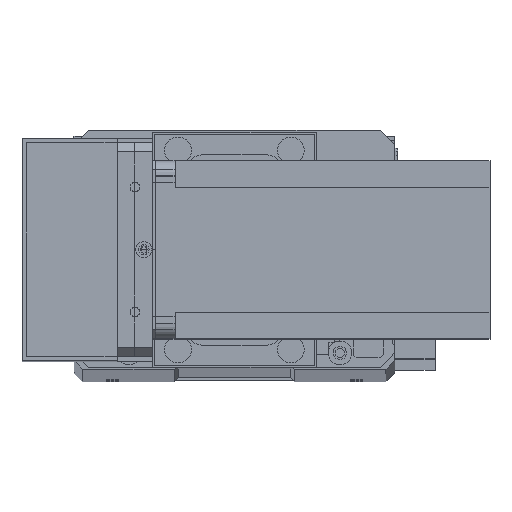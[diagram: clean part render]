
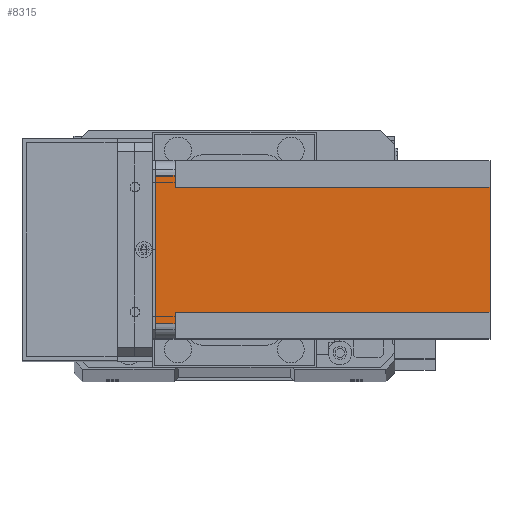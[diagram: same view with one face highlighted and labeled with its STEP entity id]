
A CAD part, top view. The second image highlights one B-rep face of the part: STEP entity #8315.
In plain terms, the highlighted planar face has unit normal (0, 0, 1) as drawn and (1, 0, 0) by its records, which use the part's own axes.
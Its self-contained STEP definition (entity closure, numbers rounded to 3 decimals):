
#38 = CARTESIAN_POINT ( 'NONE',  ( 60., 9., -112.5 ) ) ;
#225 = CARTESIAN_POINT ( 'NONE',  ( 60., 5., -112.5 ) ) ;
#447 = ORIENTED_EDGE ( 'NONE', *, *, #15375, .F. ) ;
#1530 = LINE ( 'NONE', #9133, #14650 ) ;
#2024 = LINE ( 'NONE', #30104, #8141 ) ;
#2697 = ORIENTED_EDGE ( 'NONE', *, *, #19101, .F. ) ;
#3696 = CARTESIAN_POINT ( 'NONE',  ( 60., 0., -112.5 ) ) ;
#4082 = CARTESIAN_POINT ( 'NONE',  ( 60., 0., -6.5 ) ) ;
#4479 = DIRECTION ( 'NONE',  ( 0., 1., 0. ) ) ;
#4665 = VERTEX_POINT ( 'NONE', #38 ) ;
#4818 = VECTOR ( 'NONE', #27327, 1000. ) ;
#5160 = LINE ( 'NONE', #4082, #18328 ) ;
#5825 = LINE ( 'NONE', #29837, #11990 ) ;
#6297 = DIRECTION ( 'NONE',  ( 0., 0., 1. ) ) ;
#6324 = EDGE_LOOP ( 'NONE', ( #447, #15967, #29534, #11269, #23920, #2697, #20008, #20298 ) ) ;
#6677 = VERTEX_POINT ( 'NONE', #23862 ) ;
#7307 = EDGE_CURVE ( 'NONE', #6677, #26297, #20262, .T. ) ;
#7844 = CARTESIAN_POINT ( 'NONE',  ( 60., 60., -6.5 ) ) ;
#8141 = VECTOR ( 'NONE', #32726, 1000. ) ;
#8315 = ADVANCED_FACE ( 'NONE', ( #23879 ), #33253, .T. ) ;
#9133 = CARTESIAN_POINT ( 'NONE',  ( 60., 51., -112.5 ) ) ;
#10146 = AXIS2_PLACEMENT_3D ( 'NONE', #17573, #20209, #4479 ) ;
#10960 = LINE ( 'NONE', #7844, #17128 ) ;
#10994 = EDGE_CURVE ( 'NONE', #4665, #27300, #32713, .T. ) ;
#11269 = ORIENTED_EDGE ( 'NONE', *, *, #7307, .T. ) ;
#11785 = DIRECTION ( 'NONE',  ( 0., 0., -1. ) ) ;
#11990 = VECTOR ( 'NONE', #6297, 1000. ) ;
#14650 = VECTOR ( 'NONE', #11785, 1000. ) ;
#15375 = EDGE_CURVE ( 'NONE', #19764, #20435, #10960, .T. ) ;
#15967 = ORIENTED_EDGE ( 'NONE', *, *, #23110, .T. ) ;
#16831 = EDGE_CURVE ( 'NONE', #22932, #26297, #5160, .T. ) ;
#17128 = VECTOR ( 'NONE', #28843, 1000. ) ;
#17573 = CARTESIAN_POINT ( 'NONE',  ( 60., 0., -112.5 ) ) ;
#18328 = VECTOR ( 'NONE', #25164, 1000. ) ;
#18565 = DIRECTION ( 'NONE',  ( 0., 0., -1. ) ) ;
#19101 = EDGE_CURVE ( 'NONE', #4665, #22932, #30275, .T. ) ;
#19123 = DIRECTION ( 'NONE',  ( 0., 0., 1. ) ) ;
#19764 = VERTEX_POINT ( 'NONE', #27210 ) ;
#20008 = ORIENTED_EDGE ( 'NONE', *, *, #10994, .T. ) ;
#20209 = DIRECTION ( 'NONE',  ( 1., 0., 0. ) ) ;
#20262 = LINE ( 'NONE', #225, #26408 ) ;
#20298 = ORIENTED_EDGE ( 'NONE', *, *, #31186, .F. ) ;
#20435 = VERTEX_POINT ( 'NONE', #31257 ) ;
#22795 = CARTESIAN_POINT ( 'NONE',  ( 60., 51., -112.5 ) ) ;
#22932 = VERTEX_POINT ( 'NONE', #23986 ) ;
#23110 = EDGE_CURVE ( 'NONE', #19764, #30931, #5825, .T. ) ;
#23320 = VECTOR ( 'NONE', #19123, 1000. ) ;
#23541 = CARTESIAN_POINT ( 'NONE',  ( 60., 5., -6.5 ) ) ;
#23862 = CARTESIAN_POINT ( 'NONE',  ( 60., 5., 0. ) ) ;
#23879 = FACE_OUTER_BOUND ( 'NONE', #6324, .T. ) ;
#23920 = ORIENTED_EDGE ( 'NONE', *, *, #16831, .F. ) ;
#23986 = CARTESIAN_POINT ( 'NONE',  ( 60., 9., -6.5 ) ) ;
#25164 = DIRECTION ( 'NONE',  ( 0., -1., 0. ) ) ;
#26297 = VERTEX_POINT ( 'NONE', #23541 ) ;
#26408 = VECTOR ( 'NONE', #18565, 1000. ) ;
#26491 = CARTESIAN_POINT ( 'NONE',  ( 60., 55., 0. ) ) ;
#27210 = CARTESIAN_POINT ( 'NONE',  ( 60., 55., -6.5 ) ) ;
#27300 = VERTEX_POINT ( 'NONE', #22795 ) ;
#27327 = DIRECTION ( 'NONE',  ( 0., 1., 0. ) ) ;
#28843 = DIRECTION ( 'NONE',  ( 0., -1., 0. ) ) ;
#29427 = CARTESIAN_POINT ( 'NONE',  ( 60., 9., -112.5 ) ) ;
#29534 = ORIENTED_EDGE ( 'NONE', *, *, #29942, .F. ) ;
#29837 = CARTESIAN_POINT ( 'NONE',  ( 60., 55., -112.5 ) ) ;
#29942 = EDGE_CURVE ( 'NONE', #6677, #30931, #2024, .T. ) ;
#30104 = CARTESIAN_POINT ( 'NONE',  ( 60., 0., 0. ) ) ;
#30275 = LINE ( 'NONE', #29427, #23320 ) ;
#30931 = VERTEX_POINT ( 'NONE', #26491 ) ;
#31186 = EDGE_CURVE ( 'NONE', #20435, #27300, #1530, .T. ) ;
#31257 = CARTESIAN_POINT ( 'NONE',  ( 60., 51., -6.5 ) ) ;
#32713 = LINE ( 'NONE', #3696, #4818 ) ;
#32726 = DIRECTION ( 'NONE',  ( 0., 1., 0. ) ) ;
#33253 = PLANE ( 'NONE',  #10146 ) ;
